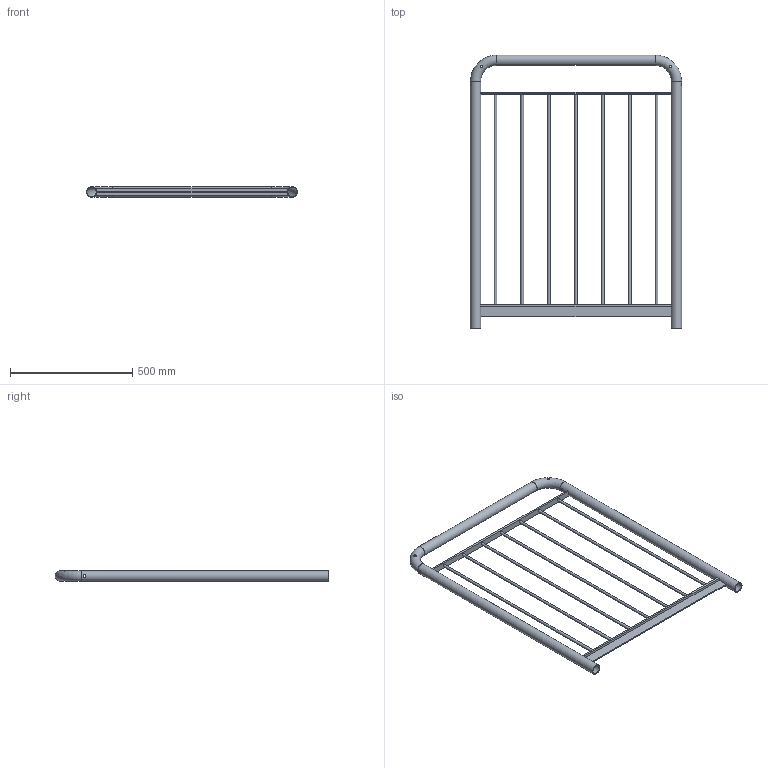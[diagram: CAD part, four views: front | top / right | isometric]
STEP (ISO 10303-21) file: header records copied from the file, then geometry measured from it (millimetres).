
FILE_DESCRIPTION((''),'2;1');
FILE_NAME('S:\Användarkataloger\AndreasA\Mina Inventor filer\Räcken\STEP\modul_bos_900-1100.stp','2010-09-07T13:29:40',('AndreasA'),(''),'Autodesk Inventor 2011','Autodesk Inventor 2011','');
FILE_SCHEMA(('AUTOMOTIVE_DESIGN { 1 0 10303 214 1 1 1 1 }'));
Length unit declared in the file: millimetre
Products named in the file (4): modul_bos_900-1100; handledare_modul_900-1100; galleri_modul_900; pls_modul_bos_900
Assembly tree (3 placements, depth 2):
  modul_bos_900-1100
    handledare_modul_900-1100
    galleri_modul_900
    pls_modul_bos_900
Bounding box: 865.4 x 1121.2 x 42.4 mm (x, y, z)
Volume: 1790232.1 mm3; surface area: 1130322.9 mm2
Topology: 3 solids, 3 shells, 45 faces, 115 edges, 74 vertices
Faces by surface type: cylinder 21, plane 20, torus 4
Full cylindrical faces by diameter (mm): 10 x4, 11 x11, 38.4 x3, 42.4 x3
Entity records: 1997 total; most frequent: CARTESIAN_POINT 912, DIRECTION 192, ORIENTED_EDGE 156, EDGE_LOOP 102, AXIS2_PLACEMENT_3D 78, EDGE_CURVE 78, VERTEX_POINT 66, FACE_BOUND 57
